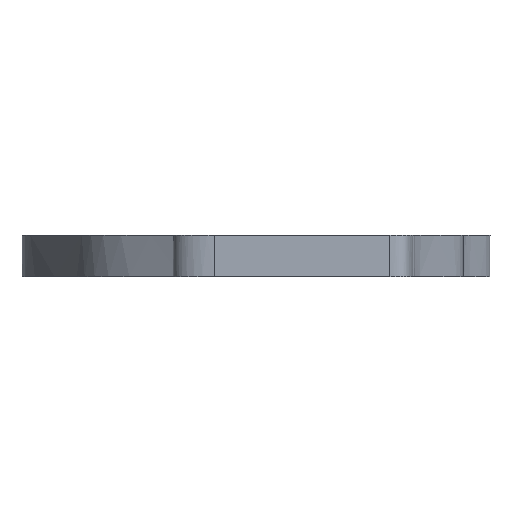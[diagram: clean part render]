
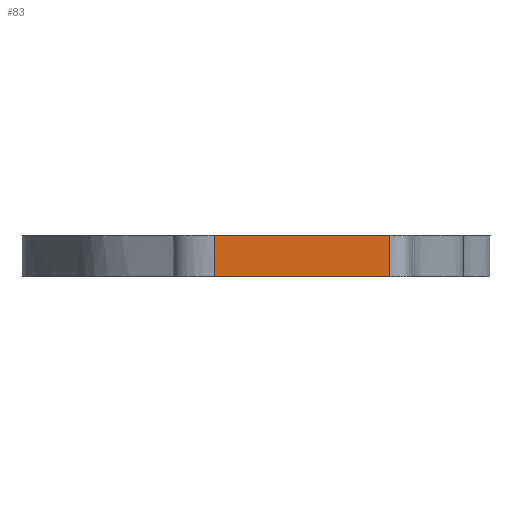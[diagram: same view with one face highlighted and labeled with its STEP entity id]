
A CAD part, left-side view. The second image highlights one B-rep face of the part: STEP entity #83.
In plain terms, the highlighted planar face has unit normal (-1, 0, 0).
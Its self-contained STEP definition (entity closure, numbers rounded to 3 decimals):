
#17=PLANE('',#103);
#25=FACE_OUTER_BOUND('',#30,.T.);
#30=EDGE_LOOP('',(#70,#71,#72,#73));
#36=LINE('',#825,#41);
#37=LINE('',#1057,#42);
#38=LINE('',#1059,#43);
#39=LINE('',#1060,#44);
#41=VECTOR('',#115,10.);
#42=VECTOR('',#116,10.);
#43=VECTOR('',#119,10.);
#44=VECTOR('',#120,10.);
#49=VERTEX_POINT('',#592);
#50=VERTEX_POINT('',#593);
#51=VERTEX_POINT('',#824);
#52=VERTEX_POINT('',#826);
#57=EDGE_CURVE('',#49,#51,#36,.T.);
#59=EDGE_CURVE('',#50,#52,#37,.T.);
#60=EDGE_CURVE('',#50,#49,#38,.T.);
#61=EDGE_CURVE('',#51,#52,#39,.T.);
#70=ORIENTED_EDGE('',*,*,#60,.F.);
#71=ORIENTED_EDGE('',*,*,#59,.T.);
#72=ORIENTED_EDGE('',*,*,#61,.F.);
#73=ORIENTED_EDGE('',*,*,#57,.F.);
#83=ADVANCED_FACE('',(#25),#17,.T.);
#103=AXIS2_PLACEMENT_3D('',#1058,#117,#118);
#115=DIRECTION('',(0.,0.,1.));
#116=DIRECTION('',(0.,0.,1.));
#117=DIRECTION('center_axis',(-1.,0.,0.));
#118=DIRECTION('ref_axis',(0.,-1.,0.));
#119=DIRECTION('',(0.,1.,0.));
#120=DIRECTION('',(0.,-1.,0.));
#592=CARTESIAN_POINT('',(75.054,-25.034,0.));
#593=CARTESIAN_POINT('',(75.054,-31.307,0.));
#824=CARTESIAN_POINT('',(75.054,-25.034,1.5));
#825=CARTESIAN_POINT('',(75.054,-25.034,0.));
#826=CARTESIAN_POINT('',(75.054,-31.307,1.5));
#1057=CARTESIAN_POINT('',(75.054,-31.307,0.));
#1058=CARTESIAN_POINT('Origin',(75.054,-25.034,0.));
#1059=CARTESIAN_POINT('',(75.054,-31.307,0.));
#1060=CARTESIAN_POINT('',(75.054,-31.307,1.5));
